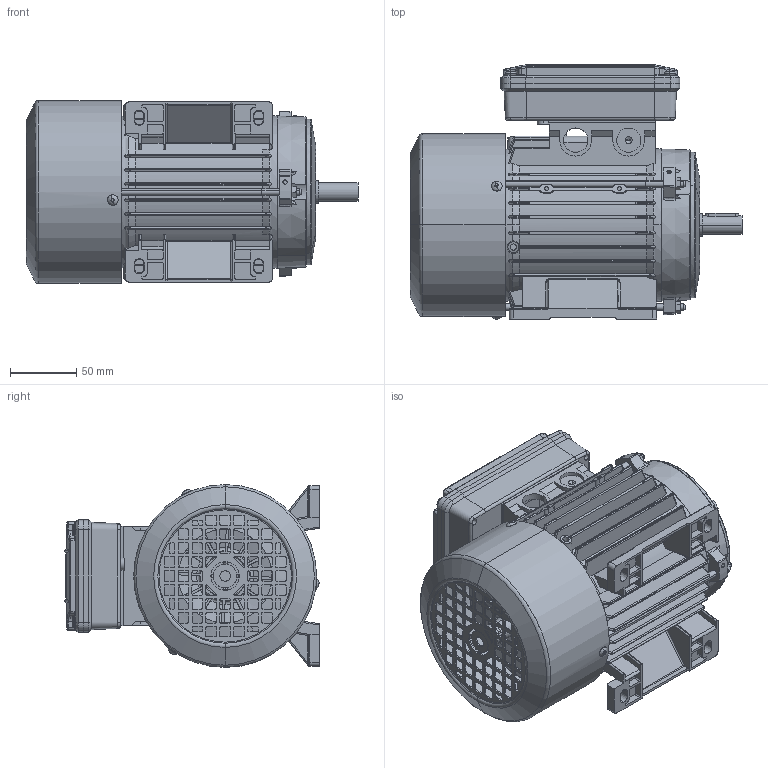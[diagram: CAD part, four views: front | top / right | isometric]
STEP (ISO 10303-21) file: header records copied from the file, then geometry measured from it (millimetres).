
FILE_DESCRIPTION (( 'STEP AP214' ), '1' );
FILE_NAME ('M24CA0011.STEP', '2019-01-10T14:51:22', ( '' ), ( '' ), 'SwSTEP 2.0', 'SolidWorks 2018', '' );
FILE_SCHEMA (( 'AUTOMOTIVE_DESIGN' ));
Length unit declared in the file: millimetre
Products named in the file (14): Tirante BM 71; Chiavetta 71; Albero SM 71 - DBD40096; Scudo Lato Comando B3 BA-BM 71- DBAD0094; Carcassa 71 B3; M24CA0011; Dado M5; Scatola per Morsettiera Doppia 63-71-80 - Completa; Guarnizione Scatola Singola 63-71-80; Vite per coperchio morsettiera; Coperchio per Scatola per Morsettiera Doppia 63-71-80; Scatola per Morsettiera Doppia 63-71-80; Vite testa rotonda M3; Cuffia SM 71
Assembly tree (23 placements, depth 3):
  M24CA0011
    Carcassa 71 B3
    Scudo Lato Comando B3 BA-BM 71- DBAD0094  x2
    Albero SM 71 - DBD40096
    Chiavetta 71
    Tirante BM 71  x3
    Cuffia SM 71
    Vite testa rotonda M3  x3
    Scatola per Morsettiera Doppia 63-71-80 - Completa
      Scatola per Morsettiera Doppia 63-71-80
      Coperchio per Scatola per Morsettiera Doppia 63-71-80
      Vite per coperchio morsettiera  x4
      Guarnizione Scatola Singola 63-71-80
    Dado M5  x3
Bounding box: 250.5 x 192 x 138 mm (x, y, z)
Volume: 620598.3 mm3; surface area: 474419.2 mm2
Topology: 25 solids, 25 shells, 3416 faces, 9295 edges, 5875 vertices
Faces by surface type: cylinder 1145, plane 1070, torus 417, bspline 416, cone 350, sphere 18
Entity records: 98744 total; most frequent: CARTESIAN_POINT 33271, ORIENTED_EDGE 14480, DIRECTION 12482, EDGE_CURVE 7240, AXIS2_PLACEMENT_3D 4691, VERTEX_POINT 4628, VECTOR 3100, LINE 3100
